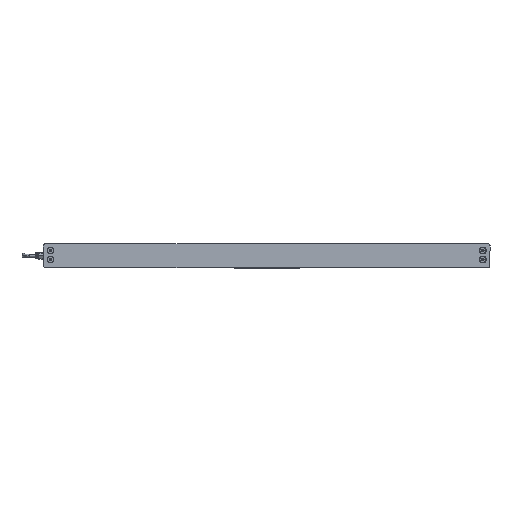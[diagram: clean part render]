
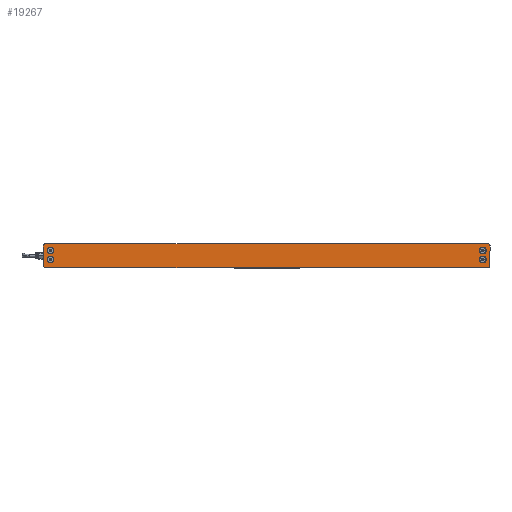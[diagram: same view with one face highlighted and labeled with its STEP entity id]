
A CAD part, left-side view. The second image highlights one B-rep face of the part: STEP entity #19267.
In plain terms, the highlighted planar face has unit normal (-1, 0, 0) as drawn and (0, 0, -1) by its records, which use the part's own axes.
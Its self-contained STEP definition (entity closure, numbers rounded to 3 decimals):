
#422 = CARTESIAN_POINT ( 'NONE',  ( -364., 20., 0. ) ) ;
#632 = CIRCLE ( 'NONE', #15370, 5.6 ) ;
#635 = LINE ( 'NONE', #6675, #22678 ) ;
#942 = EDGE_LOOP ( 'NONE', ( #19745, #4294 ) ) ;
#1581 = FACE_BOUND ( 'NONE', #4784, .T. ) ;
#2509 = EDGE_CURVE ( 'NONE', #20282, #16745, #8663, .T. ) ;
#2557 = DIRECTION ( 'NONE',  ( 0., 0., 1. ) ) ;
#2563 = DIRECTION ( 'NONE',  ( 0., 0., -1. ) ) ;
#2648 = VERTEX_POINT ( 'NONE', #21430 ) ;
#2967 = CARTESIAN_POINT ( 'NONE',  ( -368., -16., 0. ) ) ;
#3272 = CARTESIAN_POINT ( 'NONE',  ( -361.9, 8.5, 0. ) ) ;
#3284 = VERTEX_POINT ( 'NONE', #18987 ) ;
#3317 = CIRCLE ( 'NONE', #14298, 5.6 ) ;
#3358 = CIRCLE ( 'NONE', #10527, 4. ) ;
#3662 = DIRECTION ( 'NONE',  ( 0., 0., -1. ) ) ;
#3678 = EDGE_CURVE ( 'NONE', #8320, #13893, #16478, .T. ) ;
#3870 = ORIENTED_EDGE ( 'NONE', *, *, #14242, .F. ) ;
#3925 = FACE_OUTER_BOUND ( 'NONE', #16082, .T. ) ;
#3951 = CARTESIAN_POINT ( 'NONE',  ( 364., 16., 0. ) ) ;
#4085 = DIRECTION ( 'NONE',  ( -1., 0., 0. ) ) ;
#4213 = CARTESIAN_POINT ( 'NONE',  ( 350.7, -6.3, 0. ) ) ;
#4294 = ORIENTED_EDGE ( 'NONE', *, *, #2509, .F. ) ;
#4660 = AXIS2_PLACEMENT_3D ( 'NONE', #11574, #9835, #22077 ) ;
#4784 = EDGE_LOOP ( 'NONE', ( #4846, #18136 ) ) ;
#4785 = CARTESIAN_POINT ( 'NONE',  ( -356.3, 8.5, 0. ) ) ;
#4846 = ORIENTED_EDGE ( 'NONE', *, *, #8803, .F. ) ;
#4999 = DIRECTION ( 'NONE',  ( 0., 0., -1. ) ) ;
#5023 = AXIS2_PLACEMENT_3D ( 'NONE', #7738, #5914, #6164 ) ;
#5088 = DIRECTION ( 'NONE',  ( 0., 0., -1. ) ) ;
#5128 = EDGE_CURVE ( 'NONE', #13893, #16486, #19011, .T. ) ;
#5674 = AXIS2_PLACEMENT_3D ( 'NONE', #8502, #14339, #16549 ) ;
#5897 = ORIENTED_EDGE ( 'NONE', *, *, #5128, .F. ) ;
#5914 = DIRECTION ( 'NONE',  ( 0., 0., -1. ) ) ;
#6164 = DIRECTION ( 'NONE',  ( -1., 0., 0. ) ) ;
#6528 = VERTEX_POINT ( 'NONE', #11675 ) ;
#6675 = CARTESIAN_POINT ( 'NONE',  ( -364., -20., 0. ) ) ;
#6852 = CARTESIAN_POINT ( 'NONE',  ( 368., -16., 0. ) ) ;
#7400 = LINE ( 'NONE', #19685, #10398 ) ;
#7738 = CARTESIAN_POINT ( 'NONE',  ( 356.3, 8.5, 0. ) ) ;
#8118 = DIRECTION ( 'NONE',  ( 0., 0., 1. ) ) ;
#8244 = DIRECTION ( 'NONE',  ( -1., 0., 0. ) ) ;
#8320 = VERTEX_POINT ( 'NONE', #11755 ) ;
#8370 = VERTEX_POINT ( 'NONE', #24228 ) ;
#8379 = DIRECTION ( 'NONE',  ( -1., 0., 0. ) ) ;
#8397 = CARTESIAN_POINT ( 'NONE',  ( -356.3, -6.3, 0. ) ) ;
#8502 = CARTESIAN_POINT ( 'NONE',  ( -356.3, 8.5, 0. ) ) ;
#8530 = EDGE_CURVE ( 'NONE', #6528, #17962, #12406, .T. ) ;
#8653 = VERTEX_POINT ( 'NONE', #14588 ) ;
#8663 = CIRCLE ( 'NONE', #14166, 5.6 ) ;
#8674 = EDGE_CURVE ( 'NONE', #25119, #16139, #10723, .T. ) ;
#8701 = EDGE_CURVE ( 'NONE', #16139, #25119, #9474, .T. ) ;
#8803 = EDGE_CURVE ( 'NONE', #17962, #6528, #632, .T. ) ;
#9247 = DIRECTION ( 'NONE',  ( -1., 0., 0. ) ) ;
#9446 = VERTEX_POINT ( 'NONE', #422 ) ;
#9474 = CIRCLE ( 'NONE', #22084, 5.6 ) ;
#9614 = PLANE ( 'NONE',  #17635 ) ;
#9835 = DIRECTION ( 'NONE',  ( 0., 0., 1. ) ) ;
#9869 = CARTESIAN_POINT ( 'NONE',  ( 364., 16., 0. ) ) ;
#10204 = VECTOR ( 'NONE', #18884, 1000. ) ;
#10398 = VECTOR ( 'NONE', #17587, 1000. ) ;
#10527 = AXIS2_PLACEMENT_3D ( 'NONE', #3951, #18100, #4085 ) ;
#10723 = CIRCLE ( 'NONE', #5674, 5.6 ) ;
#10879 = CIRCLE ( 'NONE', #26009, 5.6 ) ;
#11092 = CARTESIAN_POINT ( 'NONE',  ( 368., 16., 0. ) ) ;
#11367 = AXIS2_PLACEMENT_3D ( 'NONE', #14330, #2557, #24320 ) ;
#11574 = CARTESIAN_POINT ( 'NONE',  ( 364., -16., 0. ) ) ;
#11675 = CARTESIAN_POINT ( 'NONE',  ( 361.9, -6.3, 0. ) ) ;
#11729 = VECTOR ( 'NONE', #12377, 1000. ) ;
#11755 = CARTESIAN_POINT ( 'NONE',  ( 364., -20., 0. ) ) ;
#12052 = CARTESIAN_POINT ( 'NONE',  ( 350.7, 8.5, 0. ) ) ;
#12377 = DIRECTION ( 'NONE',  ( 0., -1., 0. ) ) ;
#12406 = CIRCLE ( 'NONE', #18722, 5.6 ) ;
#13163 = DIRECTION ( 'NONE',  ( -1., 0., 0. ) ) ;
#13372 = AXIS2_PLACEMENT_3D ( 'NONE', #13818, #8118, #20141 ) ;
#13456 = DIRECTION ( 'NONE',  ( -1., 0., 0. ) ) ;
#13760 = EDGE_CURVE ( 'NONE', #16486, #8370, #3358, .T. ) ;
#13818 = CARTESIAN_POINT ( 'NONE',  ( -364., -16., 0. ) ) ;
#13882 = CIRCLE ( 'NONE', #11367, 4. ) ;
#13893 = VERTEX_POINT ( 'NONE', #23591 ) ;
#14048 = EDGE_CURVE ( 'NONE', #17459, #3284, #16411, .T. ) ;
#14166 = AXIS2_PLACEMENT_3D ( 'NONE', #8397, #18817, #22753 ) ;
#14242 = EDGE_CURVE ( 'NONE', #2648, #8320, #635, .T. ) ;
#14298 = AXIS2_PLACEMENT_3D ( 'NONE', #15574, #4999, #9247 ) ;
#14330 = CARTESIAN_POINT ( 'NONE',  ( -364., 16., 0. ) ) ;
#14339 = DIRECTION ( 'NONE',  ( 0., 0., -1. ) ) ;
#14500 = CARTESIAN_POINT ( 'NONE',  ( -361.9, -6.3, 0. ) ) ;
#14588 = CARTESIAN_POINT ( 'NONE',  ( -368., 16., 0. ) ) ;
#14721 = EDGE_CURVE ( 'NONE', #9446, #8653, #13882, .T. ) ;
#15370 = AXIS2_PLACEMENT_3D ( 'NONE', #18937, #24326, #8379 ) ;
#15394 = CARTESIAN_POINT ( 'NONE',  ( 356.3, -6.3, 0. ) ) ;
#15574 = CARTESIAN_POINT ( 'NONE',  ( -356.3, -6.3, 0. ) ) ;
#15813 = FACE_BOUND ( 'NONE', #25384, .T. ) ;
#15946 = FACE_BOUND ( 'NONE', #942, .T. ) ;
#16082 = EDGE_LOOP ( 'NONE', ( #24144, #5897, #25783, #3870, #17303, #18508, #21067, #16428 ) ) ;
#16139 = VERTEX_POINT ( 'NONE', #3272 ) ;
#16239 = ORIENTED_EDGE ( 'NONE', *, *, #19241, .F. ) ;
#16411 = CIRCLE ( 'NONE', #5023, 5.6 ) ;
#16428 = ORIENTED_EDGE ( 'NONE', *, *, #23412, .F. ) ;
#16478 = CIRCLE ( 'NONE', #4660, 4. ) ;
#16486 = VERTEX_POINT ( 'NONE', #11092 ) ;
#16549 = DIRECTION ( 'NONE',  ( -1., 0., 0. ) ) ;
#16745 = VERTEX_POINT ( 'NONE', #14500 ) ;
#17303 = ORIENTED_EDGE ( 'NONE', *, *, #19891, .F. ) ;
#17314 = EDGE_LOOP ( 'NONE', ( #22441, #16239 ) ) ;
#17459 = VERTEX_POINT ( 'NONE', #12052 ) ;
#17587 = DIRECTION ( 'NONE',  ( -1., 0., 0. ) ) ;
#17635 = AXIS2_PLACEMENT_3D ( 'NONE', #9869, #17807, #25806 ) ;
#17807 = DIRECTION ( 'NONE',  ( 0., 0., -1. ) ) ;
#17962 = VERTEX_POINT ( 'NONE', #4213 ) ;
#18100 = DIRECTION ( 'NONE',  ( 0., 0., 1. ) ) ;
#18136 = ORIENTED_EDGE ( 'NONE', *, *, #8530, .F. ) ;
#18508 = ORIENTED_EDGE ( 'NONE', *, *, #20618, .F. ) ;
#18722 = AXIS2_PLACEMENT_3D ( 'NONE', #15394, #5088, #13163 ) ;
#18817 = DIRECTION ( 'NONE',  ( 0., 0., -1. ) ) ;
#18884 = DIRECTION ( 'NONE',  ( 0., 1., 0. ) ) ;
#18937 = CARTESIAN_POINT ( 'NONE',  ( 356.3, -6.3, 0. ) ) ;
#18987 = CARTESIAN_POINT ( 'NONE',  ( 361.9, 8.5, 0. ) ) ;
#19011 = LINE ( 'NONE', #6852, #10204 ) ;
#19241 = EDGE_CURVE ( 'NONE', #3284, #17459, #10879, .T. ) ;
#19267 = ADVANCED_FACE ( 'NONE', ( #19771, #1581, #15813, #15946, #3925 ), #9614, .T. ) ;
#19397 = ORIENTED_EDGE ( 'NONE', *, *, #8701, .F. ) ;
#19685 = CARTESIAN_POINT ( 'NONE',  ( -364., 20., 0. ) ) ;
#19745 = ORIENTED_EDGE ( 'NONE', *, *, #22016, .F. ) ;
#19771 = FACE_BOUND ( 'NONE', #17314, .T. ) ;
#19891 = EDGE_CURVE ( 'NONE', #25712, #2648, #24696, .T. ) ;
#20103 = CARTESIAN_POINT ( 'NONE',  ( -350.7, -6.3, 0. ) ) ;
#20141 = DIRECTION ( 'NONE',  ( -1., 0., 0. ) ) ;
#20282 = VERTEX_POINT ( 'NONE', #20103 ) ;
#20544 = LINE ( 'NONE', #22120, #11729 ) ;
#20618 = EDGE_CURVE ( 'NONE', #8653, #25712, #20544, .T. ) ;
#21067 = ORIENTED_EDGE ( 'NONE', *, *, #14721, .F. ) ;
#21430 = CARTESIAN_POINT ( 'NONE',  ( -364., -20., 0. ) ) ;
#21557 = CARTESIAN_POINT ( 'NONE',  ( -350.7, 8.5, 0. ) ) ;
#21992 = CARTESIAN_POINT ( 'NONE',  ( 356.3, 8.5, 0. ) ) ;
#22016 = EDGE_CURVE ( 'NONE', #16745, #20282, #3317, .T. ) ;
#22077 = DIRECTION ( 'NONE',  ( 1., 0., 0. ) ) ;
#22084 = AXIS2_PLACEMENT_3D ( 'NONE', #4785, #2563, #8244 ) ;
#22120 = CARTESIAN_POINT ( 'NONE',  ( -368., -16., 0. ) ) ;
#22441 = ORIENTED_EDGE ( 'NONE', *, *, #14048, .F. ) ;
#22678 = VECTOR ( 'NONE', #22765, 1000. ) ;
#22753 = DIRECTION ( 'NONE',  ( -1., 0., 0. ) ) ;
#22765 = DIRECTION ( 'NONE',  ( 1., 0., 0. ) ) ;
#23412 = EDGE_CURVE ( 'NONE', #8370, #9446, #7400, .T. ) ;
#23591 = CARTESIAN_POINT ( 'NONE',  ( 368., -16., 0. ) ) ;
#24144 = ORIENTED_EDGE ( 'NONE', *, *, #13760, .F. ) ;
#24228 = CARTESIAN_POINT ( 'NONE',  ( 364., 20., 0. ) ) ;
#24320 = DIRECTION ( 'NONE',  ( -1., 0., 0. ) ) ;
#24326 = DIRECTION ( 'NONE',  ( 0., 0., -1. ) ) ;
#24696 = CIRCLE ( 'NONE', #13372, 4. ) ;
#25119 = VERTEX_POINT ( 'NONE', #21557 ) ;
#25384 = EDGE_LOOP ( 'NONE', ( #19397, #26023 ) ) ;
#25712 = VERTEX_POINT ( 'NONE', #2967 ) ;
#25783 = ORIENTED_EDGE ( 'NONE', *, *, #3678, .F. ) ;
#25806 = DIRECTION ( 'NONE',  ( -1., 0., 0. ) ) ;
#26009 = AXIS2_PLACEMENT_3D ( 'NONE', #21992, #3662, #13456 ) ;
#26023 = ORIENTED_EDGE ( 'NONE', *, *, #8674, .F. ) ;
